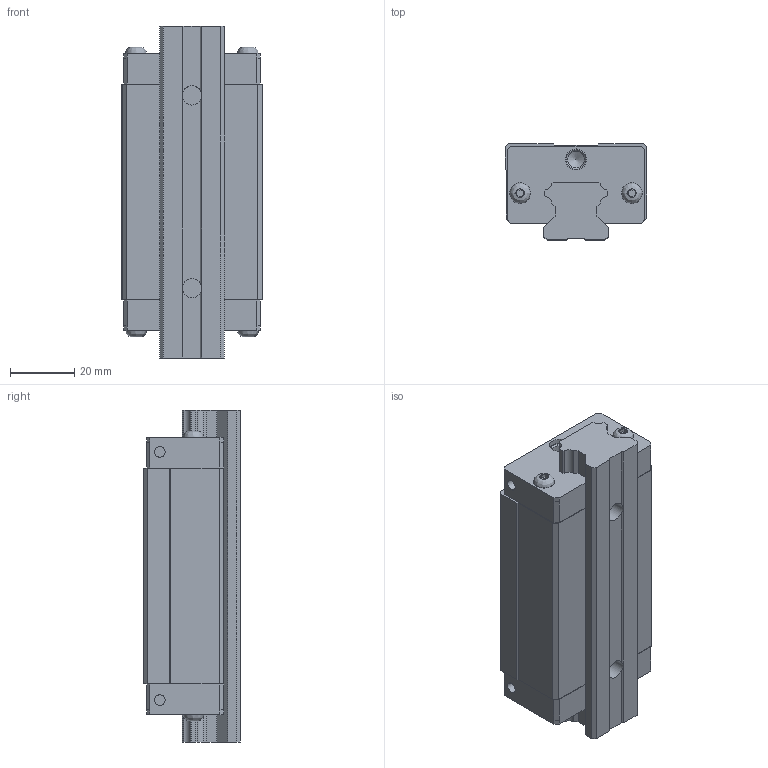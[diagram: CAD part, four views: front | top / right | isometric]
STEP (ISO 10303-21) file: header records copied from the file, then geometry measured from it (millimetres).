
FILE_DESCRIPTION( ( 'STEP AP214' ), '1' );
FILE_NAME( 'C:/Users/mimi4/OneDrive/Desktop/BSQ賅筐葭/MCS/MCH20LN.stp', '2019-11-26T05:49:31', ( ' ' ), ( ' ' ), 'XStep 1.0', 'VISICAD', ' ' );
FILE_SCHEMA( ( 'automotive_design' ) );
Length unit declared in the file: metre
Products named in the file (2): 1; 2
Bounding box: 44 x 30 x 103.3 mm (x, y, z)
Volume: 102329.5 mm3; surface area: 27109.6 mm2
Topology: 2 solids, 6 shells, 204 faces, 507 edges, 333 vertices
Faces by surface type: plane 152, cylinder 36, cone 12, bspline 4
Full cylindrical faces by diameter (mm): 3.25 x4, 3.3 x4, 4.134 x4, 5.188 x2, 6 x2, 6.5 x10, 9.5 x2
Entity records: 7446 total; most frequent: CARTESIAN_POINT 1090, DIRECTION 946, ORIENTED_EDGE 900, EDGE_CURVE 450, LINE 358, VECTOR 358, VERTEX_POINT 326, AXIS2_PLACEMENT_3D 294
